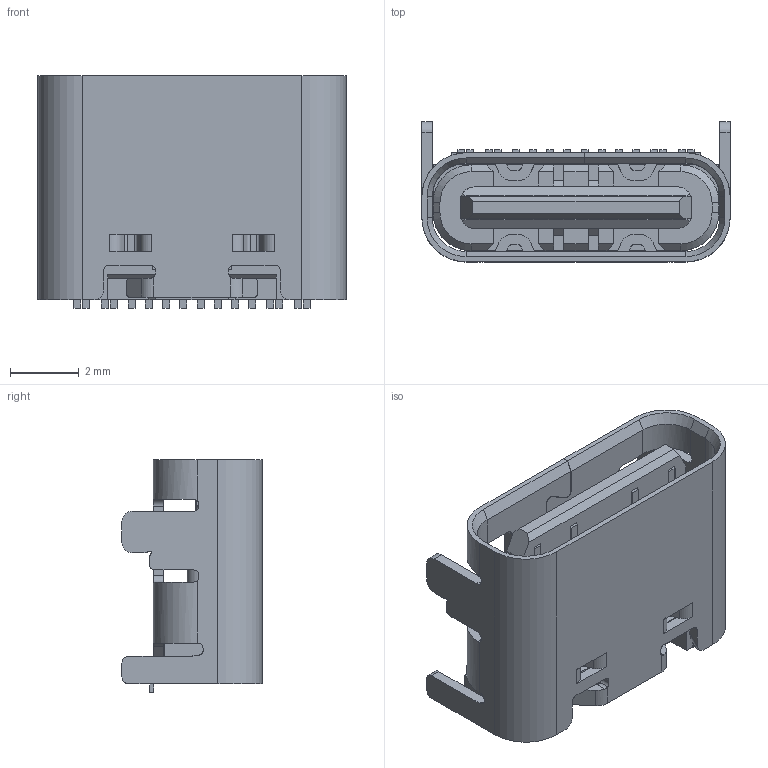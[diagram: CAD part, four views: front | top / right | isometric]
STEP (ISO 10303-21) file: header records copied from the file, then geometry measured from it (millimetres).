
FILE_DESCRIPTION((''),'2;1');
FILE_NAME('HOUSING_MD_08_WITHOUT_SPRING_5','2017-10-24T14:22:18',('Administrator'),(''),'CREO PARAMETRIC BY PTC INC, 2016510','CREO PARAMETRIC BY PTC INC, 2016510','');
FILE_SCHEMA(('CONFIG_CONTROL_DESIGN'));
Length unit declared in the file: millimetre
Products named in the file (1): HOUSING_MD_08_WITHOUT_SPRING_5
Bounding box: 8.94 x 4.06 x 6.75 mm (x, y, z)
Volume: 96 mm3; surface area: 433.7 mm2
Topology: 1 solids, 1 shells, 631 faces, 1839 edges, 1178 vertices
Faces by surface type: plane 467, cylinder 146, cone 12, bspline 6
Entity records: 21277 total; most frequent: CARTESIAN_POINT 4409, ORIENTED_EDGE 3676, DIRECTION 3333, EDGE_CURVE 1838, VECTOR 1493, LINE 1493, VERTEX_POINT 1178, AXIS2_PLACEMENT_3D 920
